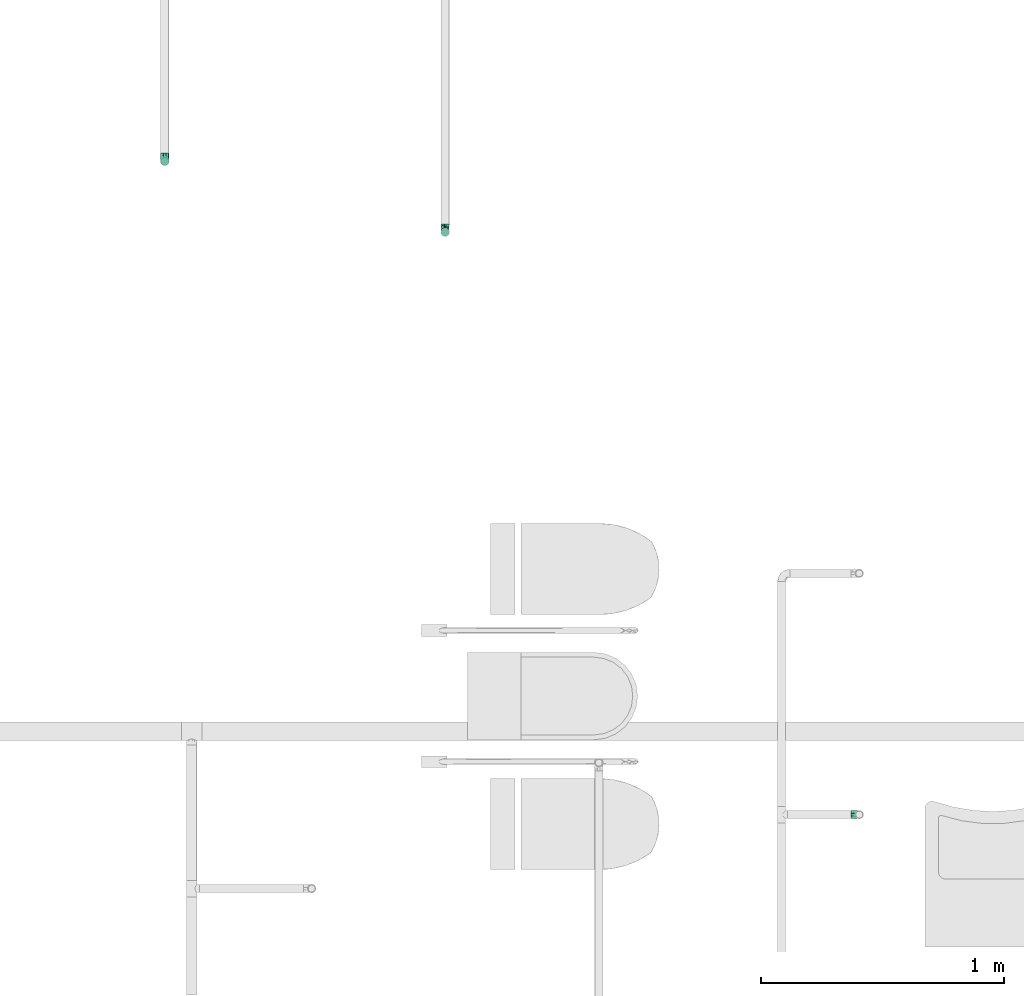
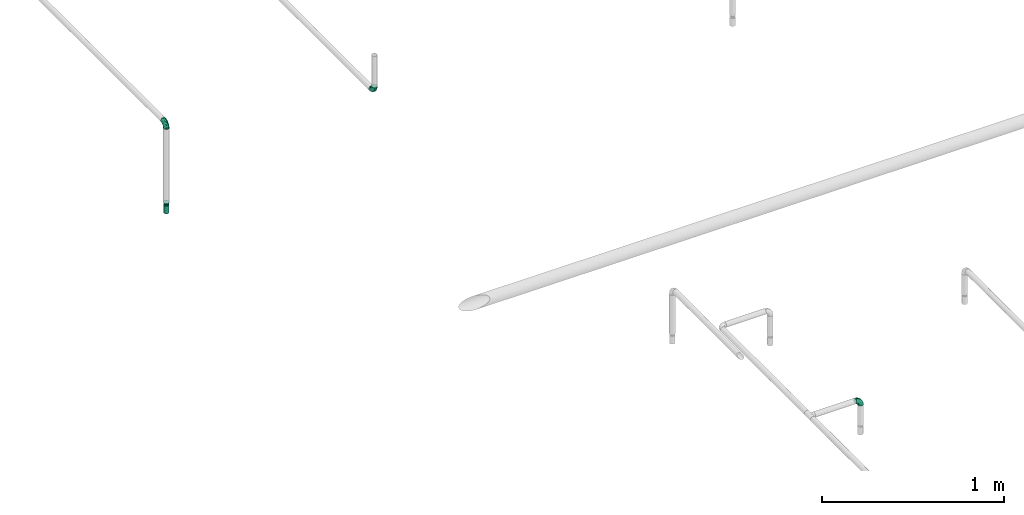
# One storey, part 48 of 95: 4 flow fittings, 1 flow terminal.
"""IFC2X3 building model written with IfcOpenShell, lengths in millimetres."""

from ifc_helpers import new_model, entity, si_unit, converted_unit, derived_unit, direction, frame, origin_with_axes, place, context, subcontext, project, spatial, open_shell, surface_model, source, transform, mapped, type_object, element, save


model = new_model("IFC2X3")

# Units and contexts
model_context = context("Model", 3, precision=0.01, world=frame((0.0, 4.29681676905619e-09, 0.0)), true_north=direction((4.01073788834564e-13, 1.0)))
plan_context = context("Plan", 3, precision=0.01, world=frame((0.0, 4.29681676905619e-09, 0.0)), true_north=direction((4.01073788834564e-13, 1.0)))
body_context = subcontext(model_context, "Body", "Model", "MODEL_VIEW")
ifc_project = project(units=[converted_unit("PLANEANGLEUNIT", "DEGREE", entity("IfcPositiveLengthMeasure", 0.0174532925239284), si_unit("PLANEANGLEUNIT", "RADIAN"), dimensions=[0, 0, 0, 0, 0, 0, 0]), si_unit("AREAUNIT", "SQUARE_METRE"), si_unit("LENGTHUNIT", "METRE", prefix="MILLI"), si_unit("MASSUNIT", "GRAM", prefix="KILO"), si_unit("POWERUNIT", "WATT"), si_unit("PRESSUREUNIT", "PASCAL"), si_unit("FORCEUNIT", "NEWTON", prefix="KILO"), si_unit("ELECTRICVOLTAGEUNIT", "VOLT"), si_unit("ELECTRICCURRENTUNIT", "AMPERE"), si_unit("THERMODYNAMICTEMPERATUREUNIT", "DEGREE_CELSIUS"), si_unit("TIMEUNIT", "SECOND"), si_unit("VOLUMEUNIT", "CUBIC_METRE"), derived_unit("LINEARVELOCITYUNIT", [(si_unit("LENGTHUNIT", "METRE"), 1), (si_unit("TIMEUNIT", "SECOND"), -1)]), derived_unit("VOLUMETRICFLOWRATEUNIT", [(si_unit("VOLUMEUNIT", "CUBIC_METRE"), 1), (si_unit("TIMEUNIT", "SECOND"), -1)]), derived_unit("THERMALTRANSMITTANCEUNIT", [(si_unit("POWERUNIT", "WATT"), 1), (si_unit("THERMODYNAMICTEMPERATUREUNIT", "KELVIN"), -1), (si_unit("AREAUNIT", "SQUARE_METRE"), -1)]), derived_unit("SOUNDPRESSUREUNIT", [(si_unit("PRESSUREUNIT", "PASCAL"), 1)])], contexts=[model_context, plan_context])

# Site, building, storey
site_placement = place(None, frame((0.0, -4.29681676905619e-09, 0.0), z_axis=(0.0, 0.0, 1.0), x_axis=(1.0, 0.0, 0.0)))
site = spatial("IfcSite", under=ifc_project, at=site_placement, CompositionType="ELEMENT")
building_placement = place(site_placement, frame((0.0, 4.29681676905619e-09, 0.0), z_axis=(0.0, 0.0, 1.0), x_axis=(1.0, 0.0, 0.0)))
building = spatial("IfcBuilding", under=site, at=building_placement, Name="mc-building", CompositionType="ELEMENT")
storey_placement = place(building_placement, frame((0.0, 0.0, 210900.0), z_axis=(0.0, 0.0, 1.0), x_axis=(1.0, 0.0, 0.0)))
storey = spatial("IfcBuildingStorey", under=building, at=storey_placement, Name="Nivå F", CompositionType="ELEMENT", Elevation=210900.0)

# Flow fittings
pipe_fitting_type_1 = type_object("IfcPipeFittingType", Name="magi_pipe_fe_reducer_centric_short_NOR", PredefinedType="TRANSITION")
shared_shape_1 = source(origin_with_axes(), body_context, "Body", "SurfaceModel", [
    surface_model("IfcShellBasedSurfaceModel", [(-2.0, -7.56604, -7.56604), (-2.0, -10.33541, -2.76936), (-2.0, -5.35, -9.26647), (-2.0, 5.35, -9.26647), (-2.0, 10.33541, -2.76936), (-2.0, 7.56604, -7.56604), (12.4, 11.9501, 11.9501), (12.4, 0.0, 16.9), (12.4, 11.9501, -11.9501), (12.4, 16.9, 0.0), (0.0, -10.7, 0.0), (0.0, -5.35, 9.26647), (0.0, -5.35, -9.26647), (0.0, 10.7, 0.0), (12.4, 15.66253, -2.98753), (12.4, 8.96258, -13.18758), (0.0, 6.6875, -6.94985), (12.4, -15.66253, -2.98753), (12.4, -16.9, 0.0), (12.4, 5.97505, -14.42505), (0.0, 5.35, -9.26647), (12.4, 14.42505, -5.97505), (0.0, 8.025, -4.63324), (0.0, 9.3625, -2.31662), (0.0, -9.3625, -2.31662), (0.0, -8.025, -4.63324), (12.4, -14.42505, -5.97505), (12.4, 13.18758, -8.96258), (12.4, -13.18758, -8.96258), (12.4, -11.9501, -11.9501), (0.0, -6.6875, -6.94985), (12.4, -8.96258, -13.18758), (12.4, -5.97505, -14.42505), (12.4, -15.66253, 2.98753), (12.4, -8.96258, 13.18758), (0.0, -6.6875, 6.94985), (12.4, -11.9501, 11.9501), (12.4, 15.66253, 2.98753), (12.4, -5.97505, 14.42505), (12.4, -14.42505, 5.97505), (0.0, -8.025, 4.63324), (0.0, -9.3625, 2.31662), (0.0, 9.3625, 2.31662), (0.0, 8.025, 4.63324), (12.4, 14.42505, 5.97505), (12.4, -13.18758, 8.96258), (12.4, 13.18758, 8.96258), (0.0, 6.6875, 6.94985), (12.4, 8.96258, 13.18758), (0.0, 5.35, 9.26647), (12.4, 5.97505, 14.42505), (14.4, 4.37404, -16.32415), (14.4, 8.45, -14.63583), (14.4, 11.9501, -11.9501), (14.4, -8.45, -14.63583), (14.4, 16.32415, -4.37404), (14.4, 16.32415, 4.37404), (14.4, 14.63583, -8.45), (14.4, 0.0, -16.9), (14.4, -4.37404, -16.32415), (14.4, -11.9501, -11.9501), (14.4, -16.32415, -4.37404), (14.4, -14.63583, -8.45), (14.4, -16.32415, 4.37404), (14.4, 16.9, 0.0), (14.4, 14.63583, 8.45), (14.4, 11.9501, 11.9501), (14.4, 4.37404, 16.32415), (14.4, 8.45, 14.63583), (14.4, 0.0, 16.9), (14.4, -14.63583, 8.45), (14.4, -16.9, 0.0), (14.4, -8.45, 14.63583), (14.4, -11.9501, 11.9501), (14.4, -4.37404, 16.32415), (12.4, 4.37404, 16.32415), (12.4, -14.63583, 8.45), (12.4, 16.32415, 4.37404), (12.4, 8.45, 14.63583), (12.4, 14.63583, 8.45), (12.4, -8.45, 14.63583), (12.4, -4.37404, 16.32415), (12.4, -16.32415, 4.37404), (12.4, -16.32415, -4.37404), (12.4, -8.45, -14.63583), (12.4, 16.32415, -4.37404), (12.4, 14.63583, -8.45), (12.4, 8.45, -14.63583), (12.4, 4.37404, -16.32415), (12.4, 0.0, -16.9), (12.4, -14.63583, -8.45), (12.4, -4.37404, -16.32415), (-2.0, 2.76936, 10.33541), (-2.0, 0.0, 10.7), (-2.0, 5.35, 9.26647), (-2.0, 7.56604, 7.56604), (-2.0, 9.26647, 5.35), (-2.0, 10.33541, 2.76936), (-2.0, -10.33541, 2.76936), (-2.0, -2.76936, 10.33541), (-2.0, -7.56604, 7.56604), (-2.0, -5.35, 9.26647), (-2.0, -9.26647, 5.35), (-2.0, -10.7, 0.0), (-2.0, 9.26647, -5.35), (-2.0, 2.76936, -10.33541), (-2.0, -9.26647, -5.35), (-2.0, 0.0, -10.7), (-2.0, -2.76936, -10.33541), (-2.0, 10.7, 0.0), (0.0, 0.0, -10.7), (0.0, 2.76936, -10.33541), (0.0, 10.33541, -2.76936), (0.0, 7.56604, -7.56604), (0.0, -10.33541, -2.76936), (0.0, 9.26647, -5.35), (0.0, 0.0, 10.7), (0.0, -2.76936, -10.33541), (0.0, -7.56604, -7.56604), (0.0, -9.26647, -5.35), (0.0, 10.33541, 2.76936), (0.0, 9.26647, 5.35), (0.0, 7.56604, 7.56604), (0.0, 2.76936, 10.33541), (0.0, -7.56604, 7.56604), (0.0, -10.33541, 2.76936), (0.0, -9.26647, 5.35), (0.0, -2.76936, 10.33541), (0.0, 2.675, -9.26647), (0.0, -2.675, -9.26647), (12.4, 2.98753, -15.66253), (0.0, 0.0, -9.26647), (12.4, -2.98753, -15.66253), (0.0, -2.675, 9.26647), (0.0, 2.675, 9.26647), (12.4, -2.98753, 15.66253), (0.0, 0.0, 9.26647), (12.4, 2.98753, 15.66253)], [open_shell([[[0, 1, 2]], [[3, 4, 5]], [[6, 7, 8]], [[8, 9, 6]], [[10, 11, 12]], [[13, 9, 14]], [[15, 16, 8]], [[17, 18, 10]], [[15, 19, 20]], [[21, 22, 23]], [[24, 25, 26]], [[22, 21, 27]], [[28, 26, 25]], [[29, 30, 31]], [[12, 32, 31]], [[10, 18, 33]], [[34, 35, 36]], [[37, 9, 13]], [[34, 38, 11]], [[39, 40, 41]], [[42, 43, 44]], [[40, 39, 45]], [[46, 44, 43]], [[6, 47, 48]], [[49, 50, 48]], [[51, 52, 53]], [[54, 51, 53]], [[53, 55, 56]], [[55, 53, 57]], [[53, 56, 54]], [[58, 54, 59]], [[58, 51, 54]], [[60, 61, 62]], [[61, 60, 54]], [[54, 63, 61]], [[56, 55, 64]], [[56, 65, 66]], [[56, 66, 67]], [[67, 63, 54]], [[67, 66, 68]], [[63, 67, 69]], [[69, 70, 63]], [[71, 61, 63]], [[70, 72, 73]], [[70, 69, 72]], [[72, 69, 74]], [[54, 56, 67]], [[75, 76, 7]], [[77, 75, 78]], [[6, 79, 77]], [[6, 77, 78]], [[76, 75, 77]], [[80, 76, 36]], [[80, 81, 7]], [[7, 76, 80]], [[82, 76, 77]], [[82, 83, 18]], [[82, 77, 84]], [[77, 85, 8]], [[8, 85, 86]], [[8, 87, 88]], [[84, 77, 8]], [[88, 89, 8]], [[83, 29, 90]], [[29, 83, 84]], [[84, 89, 91]], [[83, 82, 84]], [[8, 89, 84]], [[85, 77, 9]], [[83, 61, 18]], [[90, 62, 83]], [[54, 29, 84]], [[90, 29, 60]], [[59, 84, 91]], [[83, 62, 61]], [[61, 71, 18]], [[59, 54, 84]], [[60, 29, 54]], [[60, 62, 90]], [[58, 59, 91]], [[91, 89, 58]], [[88, 51, 89]], [[87, 52, 88]], [[57, 8, 86]], [[87, 8, 53]], [[55, 86, 85]], [[87, 53, 52]], [[52, 51, 88]], [[64, 55, 85]], [[57, 86, 55]], [[57, 53, 8]], [[9, 64, 85]], [[89, 51, 58]], [[77, 56, 9]], [[79, 65, 77]], [[68, 6, 78]], [[79, 6, 66]], [[67, 78, 75]], [[77, 65, 56]], [[56, 64, 9]], [[67, 68, 78]], [[66, 6, 68]], [[66, 65, 79]], [[69, 67, 75]], [[75, 7, 69]], [[81, 74, 7]], [[80, 72, 81]], [[70, 36, 76]], [[80, 36, 73]], [[63, 76, 82]], [[80, 73, 72]], [[72, 74, 81]], [[71, 63, 82]], [[70, 76, 63]], [[70, 73, 36]], [[18, 71, 82]], [[7, 74, 69]], [[92, 1, 93]], [[94, 1, 92]], [[95, 96, 97]], [[95, 97, 94]], [[98, 93, 1]], [[99, 100, 101]], [[99, 93, 100]], [[100, 98, 102]], [[93, 98, 100]], [[98, 1, 103]], [[94, 97, 1]], [[1, 97, 4]], [[5, 4, 104]], [[4, 3, 1]], [[105, 1, 3]], [[1, 0, 106]], [[2, 107, 108]], [[2, 1, 105]], [[105, 107, 2]], [[4, 97, 109]], [[20, 110, 111]], [[112, 20, 113]], [[114, 20, 112]], [[112, 113, 115]], [[116, 114, 112]], [[110, 12, 117]], [[110, 20, 12]], [[118, 114, 119]], [[114, 118, 12]], [[20, 114, 12]], [[112, 13, 120]], [[120, 121, 122]], [[120, 122, 123]], [[116, 112, 123]], [[123, 122, 49]], [[116, 124, 114]], [[125, 124, 126]], [[10, 114, 125]], [[124, 127, 11]], [[125, 114, 124]], [[127, 124, 116]], [[123, 112, 120]], [[1, 114, 103]], [[106, 119, 1]], [[12, 0, 2]], [[106, 0, 118]], [[117, 2, 108]], [[1, 119, 114]], [[114, 10, 103]], [[117, 12, 2]], [[118, 0, 12]], [[118, 119, 106]], [[110, 117, 108]], [[108, 107, 110]], [[105, 111, 107]], [[3, 20, 105]], [[115, 5, 104]], [[3, 5, 113]], [[112, 104, 4]], [[3, 113, 20]], [[20, 111, 105]], [[13, 112, 4]], [[115, 104, 112]], [[115, 113, 5]], [[109, 13, 4]], [[107, 111, 110]], [[97, 120, 109]], [[96, 121, 97]], [[49, 95, 94]], [[96, 95, 122]], [[123, 94, 92]], [[97, 121, 120]], [[120, 13, 109]], [[123, 49, 94]], [[122, 95, 49]], [[122, 121, 96]], [[116, 123, 92]], [[92, 93, 116]], [[99, 127, 93]], [[101, 11, 99]], [[126, 100, 102]], [[101, 100, 124]], [[125, 102, 98]], [[101, 124, 11]], [[11, 127, 99]], [[10, 125, 98]], [[126, 102, 125]], [[126, 124, 100]], [[103, 10, 98]], [[93, 127, 116]], [[18, 7, 36]], [[18, 29, 8]], [[89, 8, 29]], [[18, 8, 7]], [[13, 11, 49]], [[13, 20, 12]], [[13, 12, 11]], [[24, 26, 17]], [[10, 24, 17]], [[16, 15, 20]], [[30, 12, 31]], [[23, 14, 21]], [[19, 128, 20]], [[27, 8, 16]], [[32, 12, 129]], [[30, 28, 25]], [[130, 131, 128]], [[129, 132, 32]], [[16, 22, 27]], [[13, 14, 23]], [[128, 19, 130]], [[130, 89, 131]], [[131, 132, 129]], [[89, 132, 131]], [[28, 30, 29]], [[42, 44, 37]], [[13, 42, 37]], [[35, 34, 11]], [[47, 49, 48]], [[41, 33, 39]], [[38, 133, 11]], [[45, 36, 35]], [[50, 49, 134]], [[47, 46, 43]], [[135, 136, 133]], [[134, 137, 50]], [[35, 40, 45]], [[10, 33, 41]], [[133, 38, 135]], [[135, 7, 136]], [[136, 137, 134]], [[7, 137, 136]], [[46, 47, 6]]])]),
])
flow_fitting_placement = place(storey_placement, frame((529898.68266, 444207.85, 3762.948), z_axis=(-1.0, 0.0, 0.0), x_axis=(0.0, 0.0, 1.0)))
element("IfcFlowFitting", 1, at=flow_fitting_placement, inside=storey, type_object=pipe_fitting_type_1, Name="magi_pipe_fe_reducer_centric_short_NOR", context=body_context, shape_type="MappedRepresentation", body=[
    mapped(shared_shape_1, transform((0.0, 0.0, 0.0), scale=1.0)),
])
pipe_fitting_type_2 = type_object("IfcPipeFittingType", Name="magi_pipe_fe_elbow_short_001", PredefinedType="BEND")
shared_shape_2 = source(origin_with_axes(), body_context, "Body", "SurfaceModel", [
    surface_model("IfcShellBasedSurfaceModel", [(-33.8, 8.45, -14.63583), (-33.8, 4.37404, -16.32415), (-33.8, 11.9501, -11.9501), (-33.8, -11.9501, -11.9501), (-33.8, -14.63583, -8.45), (-33.8, -8.45, -14.63583), (-33.8, 0.0, -16.9), (-33.8, -4.37404, -16.32415), (-33.8, -4.37404, 16.32415), (-33.8, 0.0, 16.9), (-33.8, -8.45, 14.63583), (-33.8, 16.32415, -4.37404), (-33.8, 14.63583, -8.45), (-33.8, -16.32415, -4.37404), (-33.8, -16.9, 0.0), (-33.8, -16.32415, 4.37404), (-33.8, 11.9501, 11.9501), (-33.8, 14.63583, 8.45), (-33.8, 16.32415, 4.37404), (-33.8, 4.37404, 16.32415), (-33.8, 8.45, 14.63583), (-33.8, -14.63583, 8.45), (-33.8, -11.9501, 11.9501), (-33.8, 16.9, 0.0), (-11.9501, 33.8, -11.9501), (0.0, 33.8, -16.9), (-4.37404, 33.8, -16.32415), (-8.45, 33.8, -14.63583), (-14.63583, 33.8, -8.45), (-16.32415, 33.8, -4.37404), (14.63583, 33.8, -8.45), (8.45, 33.8, 14.63583), (16.32415, 33.8, -4.37404), (8.45, 33.8, -14.63583), (11.9501, 33.8, -11.9501), (4.37404, 33.8, -16.32415), (16.32415, 33.8, 4.37404), (16.9, 33.8, 0.0), (-11.9501, 33.8, 11.9501), (-16.32415, 33.8, 4.37404), (-14.63583, 33.8, 8.45), (-8.45, 33.8, 14.63583), (-4.37404, 33.8, 16.32415), (11.9501, 33.8, 11.9501), (14.63583, 33.8, 8.45), (0.0, 33.8, 16.9), (4.37404, 33.8, 16.32415), (-16.9, 33.8, 0.0), (-24.79389, -13.12945, 9.48721), (-22.19287, -9.75018, 12.59315), (-24.09897, -14.97035, 0.0), (-14.93934, -10.76256, 8.5297), (-22.46095, -14.75051, 5.27077), (14.75051, 22.46094, 5.27077), (11.9251, 13.23888, 4.33236), (13.04069, 14.39795, 0.0), (7.71387, 13.68847, 11.55891), (9.75018, 22.19287, 12.59315), (4.10169, 13.0571, 14.04018), (-24.84007, -6.39063, 15.2048), (-25.81779, -2.23879, 16.61097), (-23.66549, 2.59054, 16.87119), (-26.50418, 14.06512, 11.08152), (-24.21253, 17.66365, 7.72657), (-29.58514, 15.86957, 7.00283), (-6.17382, -7.5455, 0.0), (-13.23888, -11.9251, 4.33236), (-14.39795, -13.04069, 0.0), (-17.81434, 18.87373, 11.97104), (-6.30846, 29.15138, 15.82987), (-2.31622, 25.28002, 16.85849), (-29.23923, 10.23435, 13.77053), (-1.45439, -2.85688, 7.61475), (-0.28326, 0.34872, 10.09509), (-5.74484, -4.04709, 10.4122), (-4.41137, 11.31918, 16.59407), (-8.39727, 3.10034, 15.7812), (-1.72649, 9.1306, 15.53089), (-17.39909, 24.75344, 7.64977), (-26.19233, 20.0512, 0.0), (-28.14518, 17.29657, 4.25857), (-26.05147, 6.6281, 15.96447), (-5.87354, 16.61944, 16.86968), (-12.51807, 12.51807, 16.48937), (-10.06312, 7.38516, 16.81295), (-3.01882, 3.01882, 13.81718), (-13.0571, -4.10169, 14.04018), (-16.82553, -0.15166, 16.38038), (10.76256, 14.93934, 8.5297), (13.12945, 24.79389, 9.48721), (6.39063, 24.84007, 15.2048), (2.23879, 25.81779, 16.61097), (-13.68847, -7.71387, 11.55891), (14.97035, 24.09897, 0.0), (-7.30894, 22.89991, 16.09489), (-10.67958, 26.17414, 14.008), (-12.78295, 18.26924, 15.06066), (-13.88562, 22.45231, 12.93244), (-18.04944, 15.16501, 14.04434), (-23.11658, 20.08178, 4.02986), (-21.84989, 21.84989, 0.0), (-18.55817, 25.48277, 3.93065), (-13.95142, 26.94732, 11.03289), (-18.57098, 7.23906, 16.59756), (-16.58335, 4.14122, 16.89279), (-17.96666, 11.46709, 15.63151), (-9.84453, 17.54304, 16.18938), (0.15166, 16.82553, 16.38038), (-23.27207, 11.47201, 14.23154), (3.84842, 5.86994, 10.70473), (-8.0212, -7.54413, 7.93275), (1.00345, -2.19508, 4.57414), (5.13203, 3.01004, 5.90201), (5.24161, 1.7543, 2.53265), (8.70457, 7.04947, 3.99182), (-20.0512, 26.19233, 0.0), (8.4852, 8.76699, 7.09296), (-4.55488, -6.72064, 4.90681), (2.05031, -2.05031, 0.0), (7.5455, 6.17382, 0.0), (-26.75399, 2.1369, -16.845), (-14.61995, 24.73803, -11.27736), (-28.45274, -13.45335, -9.81895), (-26.00469, 6.63555, -15.96645), (-23.06726, 20.04573, -4.26202), (-13.80647, -4.26506, -14.17873), (-14.67501, -0.21081, -16.07388), (-6.7902, -0.2828, -13.8478), (-24.53586, 11.08096, -14.13417), (-26.72048, 14.00837, -11.05776), (10.0967, 24.44989, -12.75976), (5.83237, 21.40218, -15.03047), (6.66249, 28.54238, -15.38093), (-20.38182, 15.48705, -12.74596), (12.53268, 21.23441, -9.15363), (12.54494, 15.67504, -5.54878), (9.7522, 12.89279, -8.66343), (-15.65186, 19.64213, -13.01327), (-12.03528, 20.66498, -14.67665), (-15.61907, 15.61906, -14.83879), (-25.56551, -15.26206, 0.0), (-24.65452, -15.12934, -5.50955), (13.45335, 28.45274, -9.81895), (15.12934, 24.65452, -5.50955), (-7.35442, -8.31014, -5.65563), (-15.67504, -12.54494, -5.54878), (-24.44989, -10.0967, -12.75976), (0.16522, 0.41303, -9.71728), (-5.70658, -5.33066, -8.89288), (-5.13869, -2.37198, -11.53565), (-21.23441, -12.53268, -9.15363), (0.71146, 7.93863, -14.09382), (0.21081, 14.67501, -16.07388), (3.49291, 14.42772, -14.76381), (-24.89911, -2.13088, -16.591), (-28.54238, -6.66249, -15.38093), (-18.44386, -7.71663, -13.26957), (2.13088, 24.89911, -16.591), (-28.64342, 17.44413, -2.89318), (1.70017, -1.28722, -5.09504), (-16.57067, 26.81947, -7.36596), (-17.69055, 27.4263, -3.76405), (-12.89279, -9.7522, -8.66343), (-5.96611, 5.96611, -15.95814), (-20.53709, 20.09345, -8.28985), (-2.1369, 26.75399, -16.845), (-6.89872, 24.58781, -16.02578), (-10.60739, 26.53157, -13.98044), (-21.40218, -5.83237, -15.03047), (2.93192, 5.89627, -11.55917), (6.89393, 12.61842, -11.82233), (5.58056, 5.95325, -8.79455), (-3.99512, 18.61798, -16.89635), (8.31014, 7.35442, -5.65563), (-9.1383, 9.86148, -16.89041), (-9.99983, 16.02119, -16.39699), (-16.68576, 9.78031, -16.34199), (-27.01915, 16.61158, -7.12979), (15.26206, 25.56551, 0.0), (-18.61798, 3.99512, -16.89635), (-19.37495, 27.82495, 0.0), (-12.61842, -6.89393, -11.82233), (-18.84705, 19.14018, -10.96545)], [open_shell([[[0, 1, 2]], [[3, 4, 5]], [[6, 7, 5]], [[8, 9, 10]], [[1, 6, 2]], [[11, 12, 2]], [[4, 2, 6]], [[2, 13, 10]], [[5, 4, 6]], [[2, 4, 13]], [[14, 15, 13]], [[11, 2, 16]], [[11, 17, 18]], [[11, 16, 17]], [[19, 20, 16]], [[16, 2, 10]], [[19, 16, 10]], [[21, 22, 15]], [[22, 13, 15]], [[22, 10, 13]], [[10, 9, 19]], [[11, 18, 23]], [[24, 25, 26]], [[24, 26, 27]], [[24, 28, 29]], [[25, 24, 30]], [[31, 32, 24]], [[33, 30, 34]], [[33, 35, 25]], [[25, 30, 33]], [[32, 30, 24]], [[32, 36, 37]], [[38, 24, 29]], [[39, 40, 29]], [[40, 38, 29]], [[38, 41, 42]], [[38, 31, 24]], [[31, 38, 42]], [[36, 43, 44]], [[36, 32, 43]], [[31, 45, 46]], [[32, 31, 43]], [[42, 45, 31]], [[39, 29, 47]], [[22, 48, 49]], [[15, 14, 50]], [[51, 48, 52]], [[53, 54, 55]], [[48, 22, 21]], [[15, 52, 21]], [[56, 57, 58]], [[49, 10, 22]], [[49, 59, 10]], [[9, 60, 61]], [[62, 63, 64]], [[65, 66, 67]], [[57, 43, 31]], [[62, 68, 63]], [[42, 69, 70]], [[20, 71, 16]], [[8, 60, 9]], [[72, 73, 74]], [[75, 76, 77]], [[16, 62, 17]], [[40, 39, 78]], [[79, 23, 80]], [[64, 18, 17]], [[9, 61, 19]], [[19, 81, 20]], [[82, 83, 84]], [[74, 85, 86]], [[59, 86, 87]], [[88, 89, 57]], [[90, 31, 46]], [[44, 53, 36]], [[46, 45, 91]], [[54, 53, 88]], [[44, 89, 53]], [[92, 86, 49]], [[89, 44, 43]], [[10, 59, 8]], [[53, 55, 93]], [[93, 36, 53]], [[66, 52, 67]], [[94, 82, 70]], [[95, 96, 94]], [[97, 98, 96]], [[79, 99, 100]], [[41, 38, 95]], [[101, 100, 99]], [[68, 78, 63]], [[42, 41, 69]], [[23, 18, 80]], [[95, 94, 69]], [[78, 101, 99]], [[38, 102, 95]], [[70, 45, 42]], [[97, 95, 102]], [[15, 50, 52]], [[90, 57, 31]], [[57, 90, 58]], [[81, 19, 61]], [[103, 104, 84]], [[105, 81, 103]], [[38, 40, 102]], [[106, 96, 83]], [[94, 106, 82]], [[91, 70, 107]], [[71, 62, 16]], [[62, 108, 98]], [[86, 59, 49]], [[67, 52, 50]], [[60, 59, 87]], [[92, 49, 51]], [[86, 85, 76]], [[91, 90, 46]], [[37, 36, 93]], [[107, 77, 58]], [[107, 58, 90]], [[58, 85, 109]], [[110, 74, 92]], [[72, 74, 110]], [[66, 51, 52]], [[72, 111, 112]], [[113, 114, 112]], [[56, 88, 57]], [[52, 48, 21]], [[49, 48, 51]], [[57, 89, 43]], [[53, 89, 88]], [[103, 81, 61]], [[71, 81, 108]], [[18, 64, 80]], [[63, 78, 99]], [[47, 115, 101]], [[101, 115, 100]], [[40, 78, 102]], [[68, 102, 78]], [[97, 96, 95]], [[105, 98, 108]], [[103, 84, 83]], [[107, 70, 82]], [[76, 84, 87]], [[82, 84, 75]], [[70, 91, 45]], [[90, 91, 107]], [[59, 60, 8]], [[61, 60, 87]], [[73, 85, 74]], [[109, 112, 116]], [[103, 61, 104]], [[105, 103, 83]], [[96, 105, 83]], [[81, 105, 108]], [[96, 98, 105]], [[62, 98, 68]], [[61, 87, 104]], [[87, 84, 104]], [[86, 76, 87]], [[77, 76, 85]], [[58, 77, 85]], [[75, 77, 107]], [[82, 75, 107]], [[76, 75, 84]], [[81, 71, 20]], [[62, 71, 108]], [[95, 69, 41]], [[70, 69, 94]], [[62, 64, 17]], [[80, 63, 99]], [[63, 80, 64]], [[80, 99, 79]], [[66, 65, 117]], [[110, 66, 117]], [[112, 114, 116]], [[118, 117, 65]], [[110, 92, 51]], [[112, 111, 113]], [[119, 55, 54]], [[74, 86, 92]], [[58, 109, 56]], [[116, 56, 109]], [[66, 110, 51]], [[72, 110, 117]], [[111, 72, 117]], [[73, 112, 109]], [[117, 118, 111]], [[113, 111, 118]], [[118, 119, 113]], [[114, 119, 54]], [[119, 114, 113]], [[116, 54, 88]], [[54, 116, 114]], [[116, 88, 56]], [[112, 73, 72]], [[85, 73, 109]], [[78, 39, 101]], [[47, 101, 39]], [[102, 68, 97]], [[97, 68, 98]], [[82, 106, 83]], [[94, 96, 106]], [[1, 120, 6]], [[28, 24, 121]], [[3, 122, 4]], [[0, 123, 1]], [[100, 124, 79]], [[125, 126, 127]], [[128, 2, 129]], [[130, 131, 132]], [[128, 129, 133]], [[134, 135, 136]], [[137, 138, 139]], [[128, 0, 2]], [[67, 140, 141]], [[134, 142, 143]], [[141, 13, 4]], [[144, 65, 145]], [[146, 3, 5]], [[147, 148, 149]], [[145, 141, 150]], [[151, 152, 153]], [[154, 7, 6]], [[5, 155, 146]], [[150, 146, 156]], [[155, 5, 7]], [[143, 135, 134]], [[35, 157, 25]], [[23, 79, 158]], [[148, 159, 144]], [[160, 161, 29]], [[145, 162, 144]], [[163, 152, 151]], [[29, 28, 160]], [[121, 164, 160]], [[33, 34, 130]], [[25, 165, 26]], [[26, 165, 166]], [[142, 34, 30]], [[24, 27, 167]], [[124, 161, 164]], [[157, 35, 132]], [[155, 154, 168]], [[123, 0, 128]], [[169, 170, 171]], [[172, 157, 152]], [[26, 166, 27]], [[132, 35, 33]], [[142, 130, 34]], [[168, 154, 126]], [[136, 135, 173]], [[133, 137, 139]], [[2, 12, 129]], [[170, 131, 130]], [[30, 32, 143]], [[172, 174, 175]], [[176, 123, 128]], [[158, 177, 11]], [[135, 55, 119]], [[167, 27, 166]], [[175, 166, 172]], [[137, 167, 138]], [[122, 141, 4]], [[140, 14, 13]], [[32, 37, 178]], [[170, 130, 134]], [[152, 157, 131]], [[165, 157, 172]], [[153, 170, 151]], [[152, 163, 174]], [[168, 125, 156]], [[122, 146, 150]], [[120, 154, 6]], [[179, 174, 126]], [[179, 126, 154]], [[126, 163, 127]], [[162, 145, 150]], [[140, 13, 141]], [[32, 178, 143]], [[55, 143, 178]], [[177, 129, 12]], [[128, 133, 139]], [[176, 128, 139]], [[120, 123, 179]], [[121, 160, 28]], [[161, 100, 180]], [[166, 175, 138]], [[121, 24, 167]], [[161, 47, 29]], [[79, 124, 158]], [[124, 164, 177]], [[161, 124, 100]], [[136, 171, 170]], [[127, 163, 151]], [[147, 171, 159]], [[148, 144, 162]], [[127, 151, 169]], [[127, 181, 125]], [[129, 177, 164]], [[12, 11, 177]], [[159, 65, 144]], [[67, 141, 145]], [[143, 55, 135]], [[135, 119, 173]], [[123, 120, 1]], [[154, 120, 179]], [[157, 165, 25]], [[166, 165, 172]], [[172, 152, 174]], [[176, 139, 175]], [[126, 174, 163]], [[176, 174, 179]], [[174, 176, 175]], [[123, 176, 179]], [[150, 181, 162]], [[127, 149, 181]], [[181, 148, 162]], [[159, 148, 147]], [[171, 136, 173]], [[170, 134, 136]], [[159, 171, 173]], [[171, 147, 169]], [[169, 147, 149]], [[151, 170, 169]], [[164, 182, 129]], [[182, 121, 137]], [[181, 149, 148]], [[169, 149, 127]], [[182, 137, 133]], [[167, 137, 121]], [[166, 138, 167]], [[175, 139, 138]], [[129, 182, 133]], [[121, 182, 164]], [[161, 160, 164]], [[47, 161, 180]], [[177, 158, 124]], [[23, 158, 11]], [[130, 132, 33]], [[157, 132, 131]], [[143, 142, 30]], [[130, 142, 134]], [[154, 155, 7]], [[146, 155, 168]], [[146, 122, 3]], [[141, 122, 150]], [[152, 131, 153]], [[159, 119, 118]], [[67, 145, 65]], [[170, 153, 131]], [[119, 159, 173]], [[159, 118, 65]], [[156, 125, 181]], [[126, 125, 168]], [[150, 156, 181]], [[168, 156, 146]]])]),
])
for number, where, z_axis, x_axis, name in (
    (2, (532758.65743, 441518.15849, 3080.14999999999), (0.0, 1.0, 0.0), (1.0, 0.0, 0.0), "magi_pipe_fe_elbow_short_001"),
    (3, (531053.43639, 443915.88295, 4294.38553), (1.0, 0.0, 0.0), (0.0, 0.0, -1.0), "magi_pipe_fe_elbow_short_001"),
    (4, (529898.68266, 444207.85, 4308.26618000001), (-1.0, 0.0, 0.0), (0.0, 0.0, 1.0), "magi_pipe_fe_elbow_short_001"),
):
    element("IfcFlowFitting", number, at=place(storey_placement, frame(where, z_axis=z_axis, x_axis=x_axis)), inside=storey, type_object=pipe_fitting_type_2, Name=name, context=body_context, shape_type="MappedRepresentation", body=[
        mapped(shared_shape_2, transform((0.0, 0.0, 0.0), scale=1.0)),
    ])

# Flow terminal
fire_suppression_terminal_type = type_object("IfcFireSuppressionTerminalType", Name="SP-15-K80-68DGR-STD", PredefinedType="NOTDEFINED")
shared_shape_3 = source(origin_with_axes(), body_context, "Body", "SurfaceModel", [
    surface_model("IfcShellBasedSurfaceModel", [(15.45481, -4.1411, 53.0), (13.85641, -8.0, 53.0), (15.45481, -4.1411, 0.0), (16.0, 0.0, 0.0), (16.0, 0.0, 53.0), (15.45481, 4.1411, 0.0), (13.85641, 8.0, 53.0), (15.45481, 4.1411, 53.0), (11.31371, 11.31371, 53.0), (8.0, 13.85641, 53.0), (4.1411, 15.45481, 53.0), (-8.0, 13.85641, 53.0), (-4.1411, 15.45481, 53.0), (0.0, 16.0, 53.0), (-11.31371, 11.31371, 53.0), (-13.85641, 8.0, 53.0), (-15.45481, 4.1411, 53.0), (11.31371, -11.31371, 53.0), (-16.0, 0.0, 53.0), (0.0, -16.0, 53.0), (4.1411, -15.45481, 53.0), (8.0, -13.85641, 53.0), (-13.85641, -8.0, 53.0), (-11.31371, -11.31371, 53.0), (-15.45481, -4.1411, 53.0), (-8.0, -13.85641, 53.0), (-4.1411, -15.45481, 53.0), (8.0, -13.85641, 0.0), (4.1411, -15.45481, 0.0), (0.0, -16.0, 0.0), (-4.1411, -15.45481, 0.0), (13.85641, -8.0, 0.0), (11.31371, -11.31371, 0.0), (-16.0, 0.0, 0.0), (-8.0, -13.85641, 0.0), (-11.31371, -11.31371, 0.0), (-13.85641, -8.0, 0.0), (-15.45481, -4.1411, 0.0), (4.1411, 15.45481, 0.0), (13.85641, 8.0, 0.0), (8.0, 13.85641, 0.0), (11.31371, 11.31371, 0.0), (-15.45481, 4.1411, 0.0), (-11.31371, 11.31371, 0.0), (-8.0, 13.85641, 0.0), (-13.85641, 8.0, 0.0), (-4.1411, 15.45481, 0.0), (0.0, 16.0, 0.0)], [open_shell([[[0, 1, 2]], [[3, 4, 0]], [[5, 6, 7]], [[7, 4, 3]], [[8, 9, 10]], [[8, 10, 11]], [[8, 4, 7]], [[6, 8, 7]], [[4, 8, 11]], [[12, 11, 13]], [[11, 10, 13]], [[14, 15, 11]], [[16, 11, 15]], [[11, 16, 4]], [[16, 0, 4]], [[17, 1, 0]], [[18, 17, 16]], [[19, 20, 21]], [[18, 21, 17]], [[21, 18, 19]], [[22, 23, 24]], [[18, 24, 23]], [[25, 26, 23]], [[18, 23, 26]], [[26, 19, 18]], [[0, 16, 17]], [[27, 28, 29]], [[27, 29, 30]], [[2, 31, 32]], [[32, 27, 33]], [[2, 32, 33]], [[34, 35, 30]], [[36, 30, 35]], [[36, 37, 30]], [[37, 27, 30]], [[37, 33, 27]], [[33, 5, 2]], [[38, 5, 33]], [[39, 5, 38]], [[38, 40, 41]], [[39, 38, 41]], [[33, 42, 38]], [[43, 44, 45]], [[42, 45, 44]], [[46, 47, 44]], [[38, 42, 44]], [[44, 47, 38]], [[5, 3, 2]], [[45, 42, 16]], [[45, 15, 43]], [[46, 44, 11]], [[14, 44, 43]], [[47, 46, 12]], [[33, 18, 42]], [[18, 16, 42]], [[16, 15, 45]], [[15, 14, 43]], [[44, 14, 11]], [[11, 12, 46]], [[12, 13, 47]], [[40, 38, 10]], [[40, 9, 41]], [[5, 39, 6]], [[8, 39, 41]], [[3, 5, 7]], [[13, 10, 38]], [[10, 9, 40]], [[9, 8, 41]], [[8, 6, 39]], [[47, 13, 38]], [[2, 3, 0]], [[31, 2, 1]], [[28, 27, 21]], [[29, 28, 20]], [[1, 17, 32]], [[17, 27, 32]], [[21, 27, 17]], [[21, 20, 28]], [[31, 1, 32]], [[20, 19, 29]], [[34, 30, 26]], [[34, 25, 35]], [[37, 36, 22]], [[23, 36, 35]], [[33, 37, 24]], [[19, 26, 30]], [[26, 25, 34]], [[25, 23, 35]], [[23, 22, 36]], [[37, 22, 24]], [[24, 18, 33]], [[29, 19, 30]]])]),
])
flow_terminal_placement = place(storey_placement, frame((529898.68266, 444207.85, 3759.89999999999), z_axis=(0.0, 0.0, -1.0), x_axis=(1.0, 0.0, 0.0)))
element("IfcFlowTerminal", 5, at=flow_terminal_placement, inside=storey, type_object=fire_suppression_terminal_type, Name="SP-15-K80-68DGR-STD", context=body_context, shape_type="MappedRepresentation", body=[
    mapped(shared_shape_3, transform((0.0, 0.0, 0.0), scale=1.0)),
])

save(model, "model.ifc")
